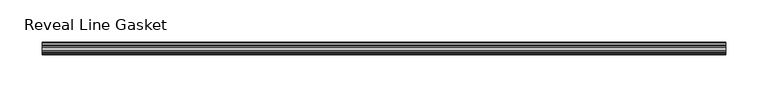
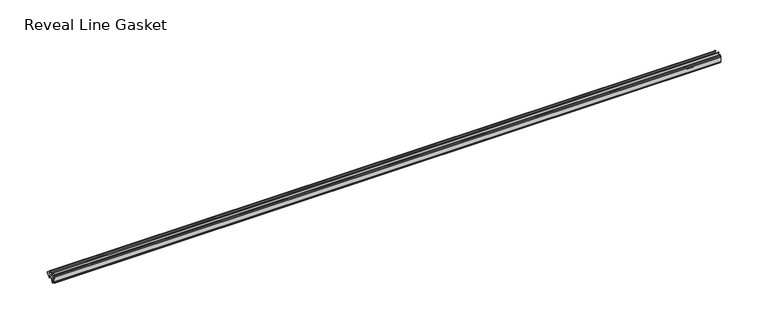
"""IFC4 building model written with IfcOpenShell, lengths in millimetres: proxy geometry, Accessories-Teknion-FHGR-AI_Healthcare-Reveal_Line_Gasket(Horizontal)-R2022 : Reveal Line Gasket."""

from ifc_helpers import new_model, si_unit, point, frame, frame_2d, origin, place, context, project, spatial, polyline, circle_curve, trimmed, segment, composite_curve, outline, extrude, source, transform, mapped, element, save


def reveal_line_gasket_fa62c7d0(model_context):
    return source(origin(), model_context, "Body", "SweptSolid", [
        extrude(outline(composite_curve([segment(polyline([(-7.6326998, 1603.2), (-7.4091917, 1604.1554927), (-6.8813059, 1605.0884684)]), True, "CONTINUOUS"), segment(trimmed(circle_curve(frame_2d((-6.5243141, 1604.8864793)), 0.4101739), [point((-6.8813059, 1605.0884684))], [point((-6.1246704, 1604.7941347))], False, "CARTESIAN"), True, "CONTINUOUS"), segment(polyline([(-6.1246704, 1604.7941347), (-6.3626997, 1603.0979086), (-6.3626997, 1601.0654527)]), True, "CONTINUOUS"), segment(trimmed(circle_curve(frame_2d((-5.6959605, 1601.4819258)), 0.786124), [point((-6.3626997, 1601.0654527))], [point((-5.0926996, 1600.977875))], True, "CARTESIAN"), True, "CONTINUOUS"), segment(polyline([(-5.0926996, 1600.977875), (-0.7492996, 1600.977875), (-3.7293824, 1606.1395295)]), True, "CONTINUOUS"), segment(trimmed(circle_curve(frame_2d((-3.3132479, 1606.2049761)), 0.4212495), [point((-3.7293824, 1606.1395295))], [point((-3.0485022, 1606.5326358))], False, "CARTESIAN"), True, "CONTINUOUS"), segment(polyline([(-3.0485022, 1606.5326358), (0.5742594, 1600.977875), (4.8262978, 1600.977875), (3.1660374, 1603.8535297)]), True, "CONTINUOUS"), segment(trimmed(circle_curve(frame_2d((3.5978728, 1603.9118855)), 0.4357605), [point((3.1660374, 1603.8535297))], [point((3.864328, 1604.2566881))], False, "CARTESIAN"), True, "CONTINUOUS"), segment(polyline([(3.864328, 1604.2566881), (6.1944059, 1600.977875), (7.6326998, 1600.977875), (7.6326998, 1599.422125), (6.1944059, 1599.422125), (3.864328, 1596.1433119)]), True, "CONTINUOUS"), segment(trimmed(circle_curve(frame_2d((3.5978728, 1596.4881145)), 0.4357605), [point((3.864328, 1596.1433119))], [point((3.1660374, 1596.5464703))], False, "CARTESIAN"), True, "CONTINUOUS"), segment(polyline([(3.1660374, 1596.5464703), (4.8262978, 1599.422125), (0.5742594, 1599.422125), (-3.0485022, 1593.8673642)]), True, "CONTINUOUS"), segment(trimmed(circle_curve(frame_2d((-3.3132479, 1594.1950239)), 0.4212495), [point((-3.0485022, 1593.8673642))], [point((-3.7293824, 1594.2604705))], False, "CARTESIAN"), True, "CONTINUOUS"), segment(polyline([(-3.7293824, 1594.2604705), (-0.7492996, 1599.422125), (-5.0926996, 1599.422125)]), True, "CONTINUOUS"), segment(trimmed(circle_curve(frame_2d((-5.6959605, 1598.9180742)), 0.786124), [point((-5.0926996, 1599.422125))], [point((-6.3626997, 1599.3345473))], True, "CARTESIAN"), True, "CONTINUOUS"), segment(polyline([(-6.3626997, 1599.3345473), (-6.3626997, 1597.3020914), (-6.1246704, 1595.6058653)]), True, "CONTINUOUS"), segment(trimmed(circle_curve(frame_2d((-6.5243141, 1595.5135207)), 0.4101739), [point((-6.1246704, 1595.6058653))], [point((-6.8813059, 1595.3115316))], False, "CARTESIAN"), True, "CONTINUOUS"), segment(polyline([(-6.8813059, 1595.3115316), (-7.4091917, 1596.2445073), (-7.6326998, 1597.2), (-7.6326998, 1603.2)]), True, "CONTINUOUS")], self_intersect=False)), frame((-407.1249464, 0.0, 0.0), z_axis=(1.0, 0.0, 0.0), x_axis=(0.0, 1.0, 0.0)), (0.0, 0.0, 1.0), 814.2498928),
    ])


if __name__ == "__main__":
    model = new_model("IFC4")
    model_context = context("Model", 3, world=origin())
    ifc_project = project(units=[si_unit("LENGTHUNIT", "METRE", prefix="MILLI")], contexts=[model_context])
    site = spatial("IfcSite", under=ifc_project)
    building = spatial("IfcBuilding", under=site)
    placement = place(None, origin())
    reveal_line_gasket_shape = reveal_line_gasket_fa62c7d0(model_context)
    element("IfcBuildingElementProxy", 1, Name="Accessories-Teknion-FHGR-AI_Healthcare-Reveal_Line_Gasket(Horizontal)-R2022 : Reveal Line Gasket", ObjectType="Accessories-Teknion-FHGR-AI_Healthcare-Reveal_Line_Gasket(Horizontal)-R2022 : Reveal Line Gasket", at=placement, inside=building, context=model_context, shape_type="MappedRepresentation", body=[
        mapped(reveal_line_gasket_shape, transform((0.0, 0.0, 0.0), x_axis=(1.0, 0.0, 0.0), y_axis=(0.0, 1.0, 0.0), z_axis=(0.0, 0.0, 1.0))),
    ])
    save(model, "model.ifc")
